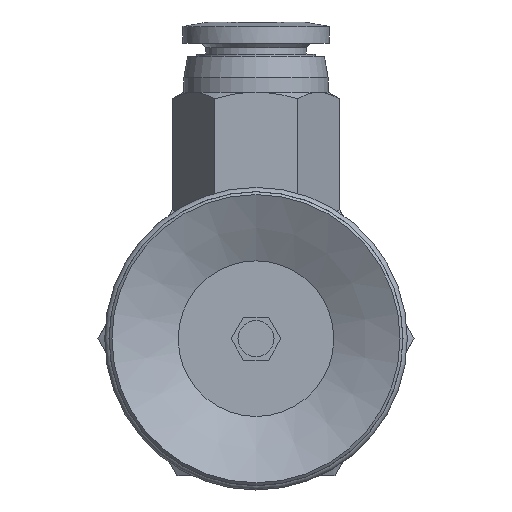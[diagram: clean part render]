
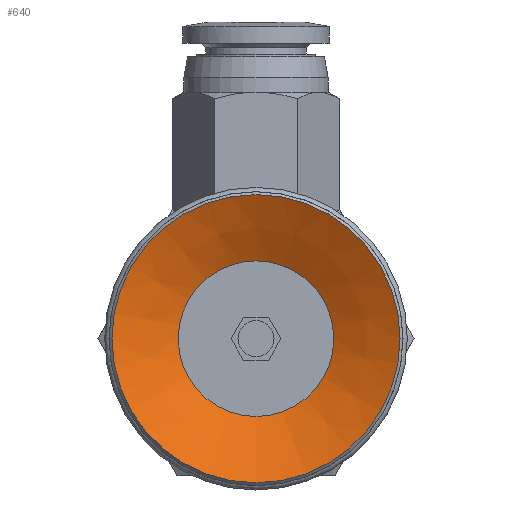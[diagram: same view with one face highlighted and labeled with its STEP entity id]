
A CAD part, front view. The second image highlights one B-rep face of the part: STEP entity #640.
In plain terms, the highlighted conical face has half-angle 63 degrees and reference radius 5.4 mm.
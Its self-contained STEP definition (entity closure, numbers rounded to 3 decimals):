
#640=ADVANCED_FACE('',(#1000,#1001),#1002,.F.);
#1000=FACE_BOUND('',#1439,.T.);
#1001=FACE_OUTER_BOUND('',#1440,.T.);
#1002=CONICAL_SURFACE('',#1441,5.4,1.1);
#1439=EDGE_LOOP('',(#2662));
#1440=EDGE_LOOP('',(#2663));
#1441=AXIS2_PLACEMENT_3D('',#2664,#2665,#2666);
#2662=ORIENTED_EDGE('',*,*,#3230,.F.);
#2663=ORIENTED_EDGE('',*,*,#3235,.T.);
#2664=CARTESIAN_POINT('',(0.0,5.518,0.0));
#2665=DIRECTION('',(-0.0,-1.0,0.));
#2666=DIRECTION('',(0.0,0.,-1.0));
#3230=EDGE_CURVE('',#3734,#3734,#3735,.T.);
#3235=EDGE_CURVE('',#3744,#3744,#3745,.T.);
#3734=VERTEX_POINT('',#4780);
#3735=CIRCLE('',#4781,5.4);
#3744=VERTEX_POINT('',#4790);
#3745=CIRCLE('',#4791,10.0);
#4780=CARTESIAN_POINT('',(0.0,5.518,-5.4));
#4781=AXIS2_PLACEMENT_3D('',#5612,#5613,#5614);
#4790=CARTESIAN_POINT('',(0.0,3.175,-10.0));
#4791=AXIS2_PLACEMENT_3D('',#5627,#5628,#5629);
#5612=CARTESIAN_POINT('',(0.0,5.518,0.0));
#5613=DIRECTION('',(0.0,-1.0,0.));
#5614=DIRECTION('',(0.0,0.,-1.0));
#5627=CARTESIAN_POINT('',(0.0,3.175,0.0));
#5628=DIRECTION('',(0.0,-1.0,0.));
#5629=DIRECTION('',(0.0,0.,-1.0));
